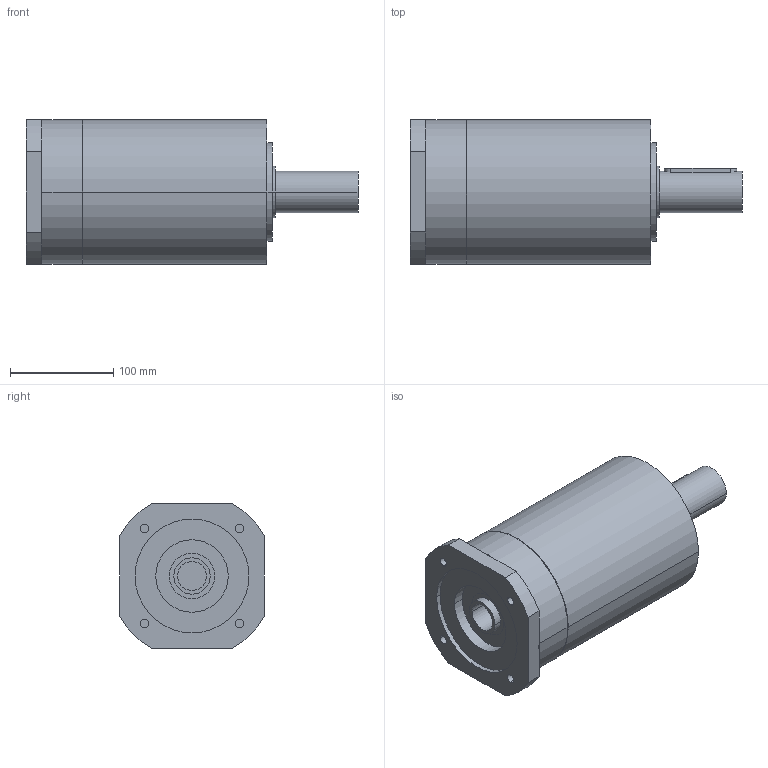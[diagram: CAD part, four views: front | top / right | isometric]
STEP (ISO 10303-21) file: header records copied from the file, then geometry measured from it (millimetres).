
FILE_DESCRIPTION(('CoCreate Modeling STEP Export'),'2;1');
FILE_NAME('GPR150_ig-9-12-16-20-28-35_40_B14_28_P04.stp','2014-08-19T17:03:45',(''),(''),'CoCreate Modeling STEP processor for AP214 (Solid Model)','CoCreate Modeling 16.00C 25-Feb-2009 (C) Parametric Technology GmbH','');
FILE_SCHEMA(('AUTOMOTIVE_DESIGN { 1 0 10303 214 1 1 1 1 }'));
Length unit declared in the file: millimetre
Products named in the file (2): GPR150_ig-9-12-16-20-28-35_40_B14_28_P04
Assembly tree (1 placements, depth 2):
  GPR150_ig-9-12-16-20-28-35_40_B14_28_P04
    GPR150_ig-9-12-16-20-28-35_40_B14_28_P04
Bounding box: 321 x 140 x 140 mm (x, y, z)
Volume: 3626899.9 mm3; surface area: 171471.9 mm2
Topology: 1 solids, 1 shells, 89 faces, 238 edges, 164 vertices
Faces by surface type: cylinder 52, plane 31, cone 6
Entity records: 2401 total; most frequent: ORIENTED_EDGE 472, CARTESIAN_POINT 451, DIRECTION 322, EDGE_CURVE 236, VERTEX_POINT 164, AXIS2_PLACEMENT_3D 123, EDGE_LOOP 112, FACE_OUTER_BOUND 89
